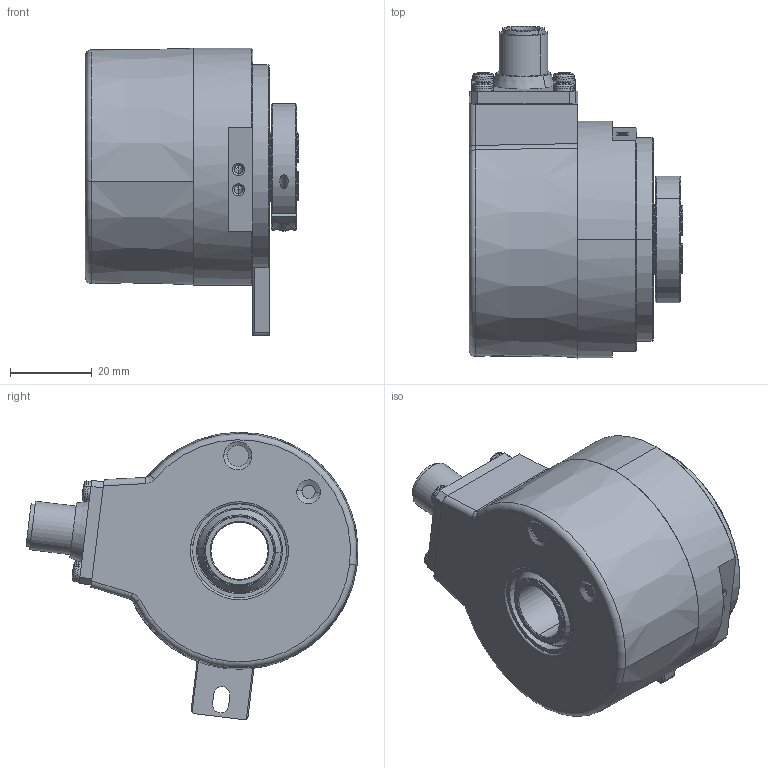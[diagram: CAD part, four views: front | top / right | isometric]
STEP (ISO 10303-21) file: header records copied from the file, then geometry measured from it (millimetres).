
FILE_DESCRIPTION (( 'STEP AP203' ), '1' );
FILE_NAME ('8.5834.15X6.XXXX.STEP', '2013-11-22T08:00:17', ( 'HeirlerN' ), ( 'Microsoft' ), 'SwSTEP 2.0', 'SolidWorks 2013', '' );
FILE_SCHEMA (( 'CONFIG_CONTROL_DESIGN' ));
Length unit declared in the file: millimetre
Products named in the file (1): 8.5834.15X6.XXXX
Bounding box: 52.2 x 81.25 x 70.33 mm (x, y, z)
Volume: 73677.5 mm3; surface area: 47792.4 mm2
Topology: 20 solids, 21 shells, 1034 faces, 2591 edges, 1583 vertices
Faces by surface type: plane 332, cylinder 308, cone 200, torus 94, sphere 68, bspline 32
Entity records: 32794 total; most frequent: CARTESIAN_POINT 8517, DIRECTION 5318, ORIENTED_EDGE 4890, EDGE_CURVE 2445, AXIS2_PLACEMENT_3D 2161, VERTEX_POINT 1531, EDGE_LOOP 1180, CIRCLE 1158
